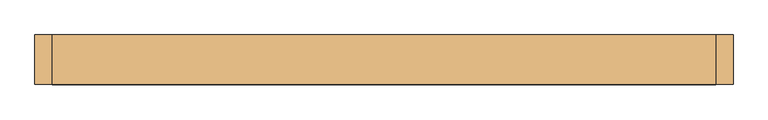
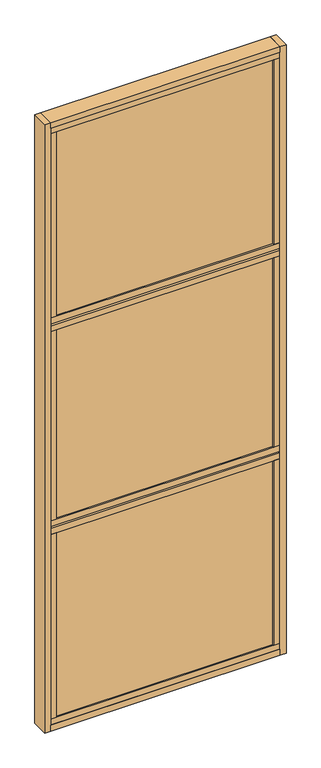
"""IFC4 building model written with IfcOpenShell, lengths in millimetres: door geometry, Mobiliário_Mobiliário de Escritório_Painel de Vidro Duplo - AV3T (Completo)_Marelli : AV3T - Temperado."""

from ifc_helpers import new_model, si_unit, frame, origin, origin_with_axes, place, context, project, spatial, polyline, outline, extrude, source, transform, mapped, element, save


def door_438c55ef(model_context):
    return source(origin(), model_context, "Body", "SweptSolid", [
        extrude(outline(polyline([(570.0, 42.5), (570.0, -42.5), (-570.0, -42.5), (-570.0, 42.5), (570.0, 42.5)])), origin_with_axes(), (0.0, 0.0, 1.0), 30.0),
        extrude(outline(polyline([(-540.0, 39.5), (-540.0, -39.5), (-570.0, -39.5), (-570.0, 39.5), (-540.0, 39.5)])), frame((0.0, 0.0, 60.0), z_axis=(0.0, 0.0, 1.0), x_axis=(1.0, 0.0, 0.0)), (0.0, 0.0, 1.0), 971.6666667),
        extrude(outline(polyline([(540.0, 39.5), (570.0, 39.5), (570.0, -39.5), (540.0, -39.5), (540.0, 39.5)])), frame((0.0, 0.0, 60.0), z_axis=(0.0, 0.0, 1.0), x_axis=(1.0, 0.0, 0.0)), (0.0, 0.0, 1.0), 971.6666667),
        extrude(outline(polyline([(570.0, 39.5), (570.0, -39.5), (-570.0, -39.5), (-570.0, 39.5), (570.0, 39.5)])), frame((0.0, 0.0, 30.0), z_axis=(0.0, 0.0, 1.0), x_axis=(1.0, 0.0, 0.0)), (0.0, 0.0, 1.0), 30.0),
        extrude(outline(polyline([(540.0, -25.5), (540.0, -31.5), (-540.0, -31.5), (-540.0, -25.5), (540.0, -25.5)])), frame((0.0, 0.0, 60.0), z_axis=(0.0, 0.0, 1.0), x_axis=(1.0, 0.0, 0.0)), (0.0, 0.0, 1.0), 971.6666667),
        extrude(outline(polyline([(540.0, 31.5), (540.0, 25.5), (-540.0, 25.5), (-540.0, 31.5), (540.0, 31.5)])), frame((0.0, 0.0, 60.0), z_axis=(0.0, 0.0, 1.0), x_axis=(1.0, 0.0, 0.0)), (0.0, 0.0, 1.0), 971.6666667),
        extrude(outline(polyline([(570.0, 39.5), (570.0, -39.5), (-570.0, -39.5), (-570.0, 39.5), (570.0, 39.5)])), frame((0.0, 0.0, 2138.3333333), z_axis=(0.0, 0.0, 1.0), x_axis=(1.0, 0.0, 0.0)), (0.0, 0.0, 1.0), 30.0),
        extrude(outline(polyline([(570.0, 21.5), (570.0, -21.5), (-570.0, -21.5), (-570.0, 21.5), (570.0, 21.5)])), frame((0.0, 0.0, 2128.3333333), z_axis=(0.0, 0.0, 1.0), x_axis=(1.0, 0.0, 0.0)), (0.0, 0.0, 1.0), 10.0),
        extrude(outline(polyline([(570.0, 39.5), (570.0, -39.5), (-570.0, -39.5), (-570.0, 39.5), (570.0, 39.5)])), frame((0.0, 0.0, 2098.3333333), z_axis=(0.0, 0.0, 1.0), x_axis=(1.0, 0.0, 0.0)), (0.0, 0.0, 1.0), 30.0),
        extrude(outline(polyline([(570.0, 21.5), (570.0, -21.5), (-570.0, -21.5), (-570.0, 21.5), (570.0, 21.5)])), frame((0.0, 0.0, 1061.6666667), z_axis=(0.0, 0.0, 1.0), x_axis=(1.0, 0.0, 0.0)), (0.0, 0.0, 1.0), 10.0),
        extrude(outline(polyline([(570.0, 39.5), (570.0, -39.5), (-570.0, -39.5), (-570.0, 39.5), (570.0, 39.5)])), frame((0.0, 0.0, 1071.6666667), z_axis=(0.0, 0.0, 1.0), x_axis=(1.0, 0.0, 0.0)), (0.0, 0.0, 1.0), 30.0),
        extrude(outline(polyline([(570.0, 39.5), (570.0, -39.5), (-570.0, -39.5), (-570.0, 39.5), (570.0, 39.5)])), frame((0.0, 0.0, 1031.6666667), z_axis=(0.0, 0.0, 1.0), x_axis=(1.0, 0.0, 0.0)), (0.0, 0.0, 1.0), 30.0),
        extrude(outline(polyline([(570.0, 42.5), (570.0, -42.5), (-570.0, -42.5), (-570.0, 42.5), (570.0, 42.5)])), frame((0.0, 0.0, 3170.0), z_axis=(0.0, 0.0, 1.0), x_axis=(1.0, 0.0, 0.0)), (0.0, 0.0, 1.0), 30.0),
        extrude(outline(polyline([(570.0, 39.5), (570.0, -39.5), (-570.0, -39.5), (-570.0, 39.5), (570.0, 39.5)])), frame((0.0, 0.0, 3140.0), z_axis=(0.0, 0.0, 1.0), x_axis=(1.0, 0.0, 0.0)), (0.0, 0.0, 1.0), 30.0),
        extrude(outline(polyline([(-600.0, -42.5), (-600.0, 42.5), (-570.0, 42.5), (-570.0, -42.5), (-600.0, -42.5)])), origin_with_axes(), (0.0, 0.0, 1.0), 3200.0),
        extrude(outline(polyline([(600.0, -42.5), (570.0, -42.5), (570.0, 42.5), (600.0, 42.5), (600.0, -42.5)])), origin_with_axes(), (0.0, 0.0, 1.0), 3200.0),
        extrude(outline(polyline([(540.0, -25.5), (540.0, -31.5), (-540.0, -31.5), (-540.0, -25.5), (540.0, -25.5)])), frame((0.0, 0.0, 2168.3333333), z_axis=(0.0, 0.0, 1.0), x_axis=(1.0, 0.0, 0.0)), (0.0, 0.0, 1.0), 971.6666667),
        extrude(outline(polyline([(-540.0, 39.5), (-540.0, -39.5), (-570.0, -39.5), (-570.0, 39.5), (-540.0, 39.5)])), frame((0.0, 0.0, 2168.3333333), z_axis=(0.0, 0.0, 1.0), x_axis=(1.0, 0.0, 0.0)), (0.0, 0.0, 1.0), 971.6666667),
        extrude(outline(polyline([(540.0, 39.5), (570.0, 39.5), (570.0, -39.5), (540.0, -39.5), (540.0, 39.5)])), frame((0.0, 0.0, 2168.3333333), z_axis=(0.0, 0.0, 1.0), x_axis=(1.0, 0.0, 0.0)), (0.0, 0.0, 1.0), 971.6666667),
        extrude(outline(polyline([(540.0, 31.5), (540.0, 25.5), (-540.0, 25.5), (-540.0, 31.5), (540.0, 31.5)])), frame((0.0, 0.0, 2168.3333333), z_axis=(0.0, 0.0, 1.0), x_axis=(1.0, 0.0, 0.0)), (0.0, 0.0, 1.0), 971.6666667),
        extrude(outline(polyline([(540.0, -25.5), (540.0, -31.5), (-540.0, -31.5), (-540.0, -25.5), (540.0, -25.5)])), frame((0.0, 0.0, 1101.6666667), z_axis=(0.0, 0.0, 1.0), x_axis=(1.0, 0.0, 0.0)), (0.0, 0.0, 1.0), 996.6666667),
        extrude(outline(polyline([(540.0, 31.5), (540.0, 25.5), (-540.0, 25.5), (-540.0, 31.5), (540.0, 31.5)])), frame((0.0, 0.0, 1101.6666667), z_axis=(0.0, 0.0, 1.0), x_axis=(1.0, 0.0, 0.0)), (0.0, 0.0, 1.0), 996.6666667),
        extrude(outline(polyline([(-540.0, 39.5), (-540.0, -39.5), (-570.0, -39.5), (-570.0, 39.5), (-540.0, 39.5)])), frame((0.0, 0.0, 1101.6666667), z_axis=(0.0, 0.0, 1.0), x_axis=(1.0, 0.0, 0.0)), (0.0, 0.0, 1.0), 996.6666667),
        extrude(outline(polyline([(540.0, 39.5), (570.0, 39.5), (570.0, -39.5), (540.0, -39.5), (540.0, 39.5)])), frame((0.0, 0.0, 1101.6666667), z_axis=(0.0, 0.0, 1.0), x_axis=(1.0, 0.0, 0.0)), (0.0, 0.0, 1.0), 996.6666667),
    ])


if __name__ == "__main__":
    model = new_model("IFC4")
    model_context = context("Model", 3, world=origin())
    ifc_project = project(units=[si_unit("LENGTHUNIT", "METRE", prefix="MILLI")], contexts=[model_context])
    site = spatial("IfcSite", under=ifc_project)
    building = spatial("IfcBuilding", under=site)
    placement = place(None, origin())
    door_shape = door_438c55ef(model_context)
    element("IfcDoor", 1, ObjectType="Mobiliário_Mobiliário de Escritório_Painel de Vidro Duplo - AV3T (Completo)_Marelli : AV3T - Temperado", at=placement, inside=building, context=model_context, shape_type="MappedRepresentation", body=[
        mapped(door_shape, transform((0.0, 0.0, 0.0), x_axis=(1.0, 0.0, 0.0), y_axis=(0.0, 1.0, 0.0), z_axis=(0.0, 0.0, 1.0))),
    ])
    save(model, "model.ifc")
